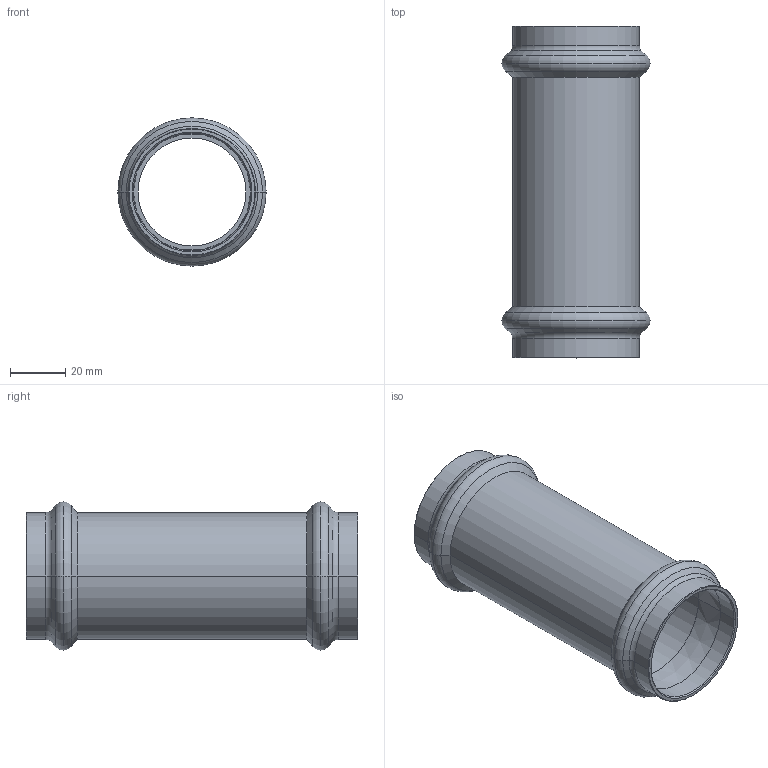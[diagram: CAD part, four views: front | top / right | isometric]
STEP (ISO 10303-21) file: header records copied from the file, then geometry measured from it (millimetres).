
FILE_DESCRIPTION(('CoCreate Modeling STEP Export'),'2;1');
FILE_NAME('8275VW42.stp','2013-01-29T12:47:08',(''),(''),'CoCreate Modeling STEP processor for AP214 (Solid Model)','CoCreate Modeling 17.00A 17-Jun-2010 (C) Parametric Technology GmbH','');
FILE_SCHEMA(('AUTOMOTIVE_DESIGN { 1 0 10303 214 1 1 1 1 }'));
Length unit declared in the file: millimetre
Products named in the file (1): 8275VW42
Bounding box: 53.61 x 120 x 53.61 mm (x, y, z)
Volume: 36654.2 mm3; surface area: 35743.2 mm2
Topology: 1 solids, 1 shells, 62 faces, 126 edges, 70 vertices
Faces by surface type: cone 20, cylinder 20, torus 16, plane 6
Entity records: 1316 total; most frequent: ORIENTED_EDGE 252, DIRECTION 206, CARTESIAN_POINT 193, EDGE_CURVE 126, AXIS2_PLACEMENT_3D 83, VERTEX_POINT 70, EDGE_LOOP 68, FACE_OUTER_BOUND 62
